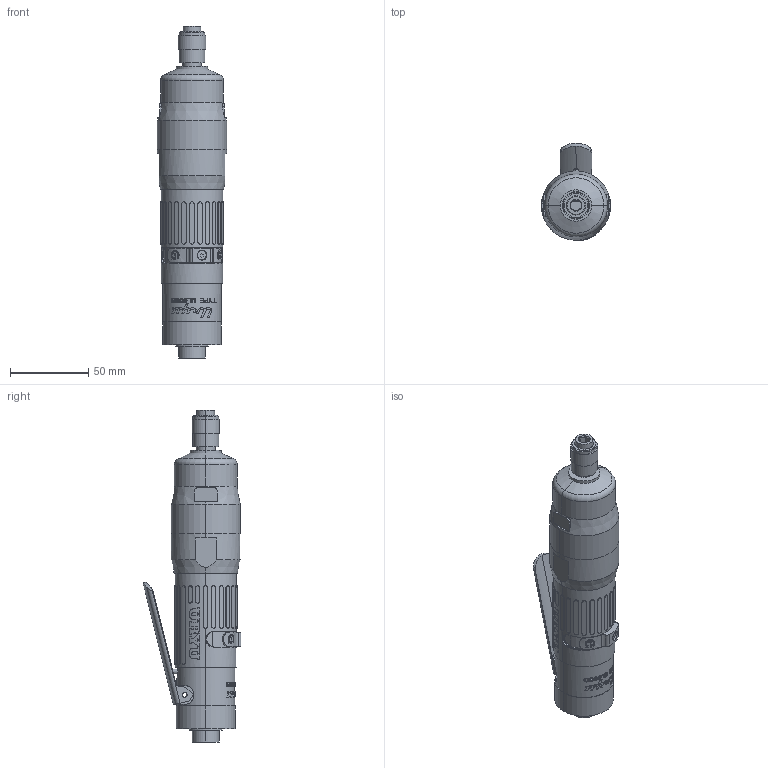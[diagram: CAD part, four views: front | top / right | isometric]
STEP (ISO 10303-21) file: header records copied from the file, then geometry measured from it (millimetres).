
FILE_DESCRIPTION (( 'STEP AP203' ), '1' );
FILE_NAME ('UL60SD.STEP', '2006-06-07T03:47:15', ( '' ), ( '' ), 'SwSTEP 2.0', 'SolidWorks 2003240', '' );
FILE_SCHEMA (( 'CONFIG_CONTROL_DESIGN' ));
Length unit declared in the file: millimetre
Products named in the file (10): 1298423_UL60S_蹬怮椔; 9702210_UL60S_蹬怮椔; UL60SD; 1074392_UL60S_蹬怮椔; 1070252_UL60S_蹬怮椔; 1612123_UL60S_蹬怮椔; 1961077_UL60S_蹬怮椔; 1433507_UL60D_蹬怮椔; 9810020_UL60D_蹬怮椔; 0113511_UL60D_蹬怮椔
Assembly tree (9 placements, depth 2):
  UL60SD
    9810020_UL60D_蹬怮椔
    1612123_UL60S_蹬怮椔
    1074392_UL60S_蹬怮椔
    1961077_UL60S_蹬怮椔
    1433507_UL60D_蹬怮椔
    0113511_UL60D_蹬怮椔
    1298423_UL60S_蹬怮椔
    1070252_UL60S_蹬怮椔
    9702210_UL60S_蹬怮椔
Bounding box: 44 x 62.33 x 211.5 mm (x, y, z)
Volume: 227646.6 mm3; surface area: 53156.3 mm2
Topology: 9 solids, 9 shells, 790 faces, 2088 edges, 1384 vertices
Faces by surface type: plane 392, cylinder 287, bspline 93, cone 8, torus 6, sphere 4
Entity records: 34563 total; most frequent: CARTESIAN_POINT 15147, ORIENTED_EDGE 4166, DIRECTION 3279, EDGE_CURVE 2083, VERTEX_POINT 1381, AXIS2_PLACEMENT_3D 1121, LINE 1037, VECTOR 1037
